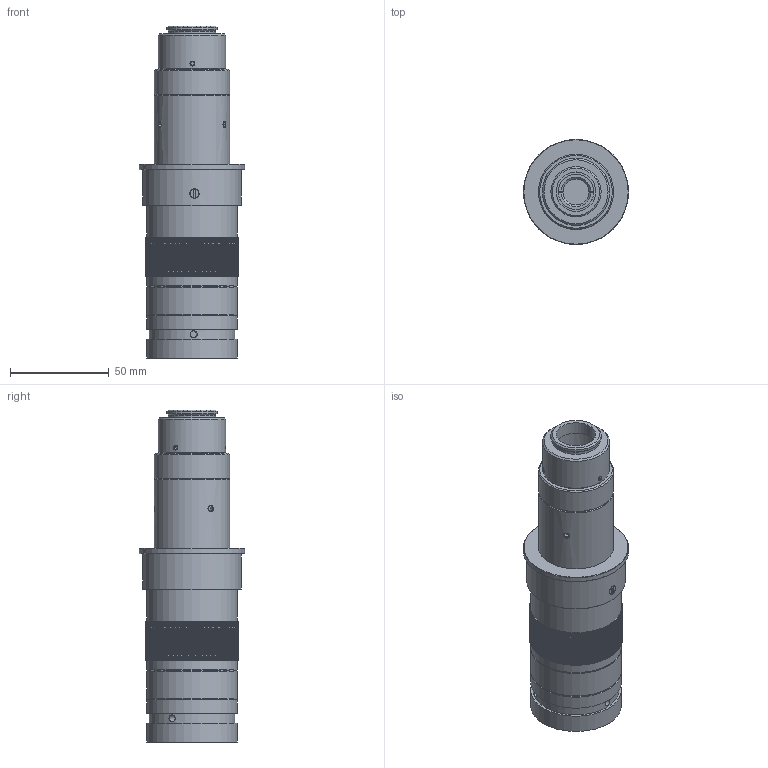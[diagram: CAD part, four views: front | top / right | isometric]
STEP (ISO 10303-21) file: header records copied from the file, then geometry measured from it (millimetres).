
FILE_DESCRIPTION(('STEP AP214'),'1');
FILE_NAME('SDS-M.stp','2023-04-24T08:22:35',(' '),(' '),'Spatial InterOp 3D',' ',' ');
FILE_SCHEMA(('AUTOMOTIVE_DESIGN { 1 0 10303 214 1 1 1 1 }'));
Length unit declared in the file: metre
Products named in the file (3): SDS-M; Component1; Component2
Assembly tree (2 placements, depth 2):
  SDS-M
    Component1
    Component2
Bounding box: 53.2 x 53.2 x 168 mm (x, y, z)
Volume: 206950.4 mm3; surface area: 46952.7 mm2
Topology: 2 solids, 2 shells, 1398 faces, 3381 edges, 2244 vertices
Faces by surface type: plane 1198, cylinder 120, cone 50, offset 22, torus 6, bspline 2
Full cylindrical faces by diameter (mm): 1.5 x1, 2.5 x3, 3 x6, 3.5 x3, 12.8 x1, 13 x3, 15.8 x1, 15.9 x1, 18 x1, 19.3 x1, 19.9 x1, 20 x4, 21.9 x1, 22 x1, 23.5 x1, 24 x1, 25.4 x1, 27.9 x1, 28 x2, 28.1 x1, 34 x1, 38 x2, 42 x1, 43.5 x1, 46 x5, 46.8 x1, 47 x1, 50 x1, 53.2 x1
Entity records: 60594 total; most frequent: CARTESIAN_POINT 17080, ORIENTED_EDGE 6490, DIRECTION 6398, EDGE_CURVE 3245, LINE 2334, VECTOR 2334, VERTEX_POINT 2198, AXIS2_PLACEMENT_3D 2032
